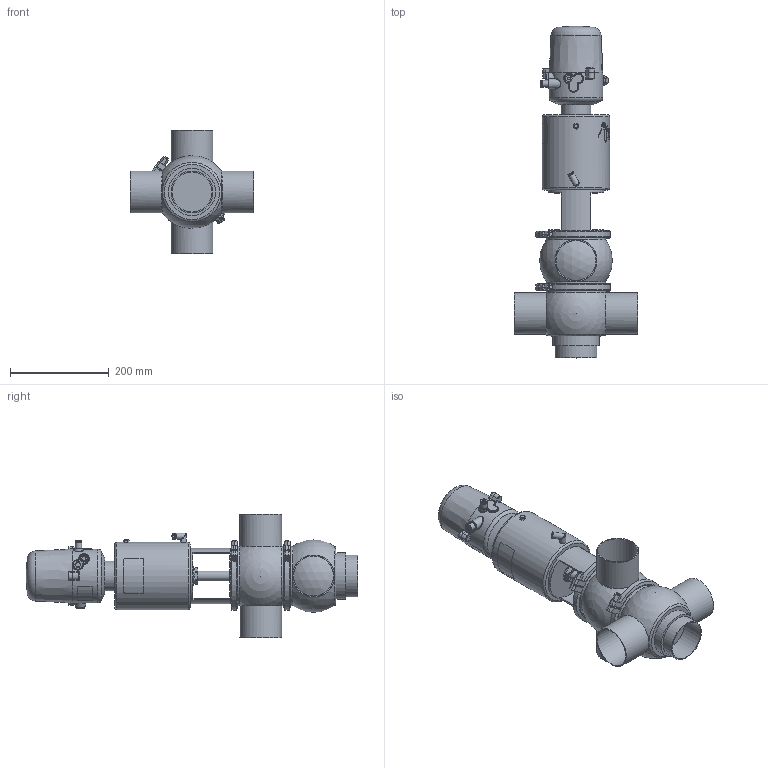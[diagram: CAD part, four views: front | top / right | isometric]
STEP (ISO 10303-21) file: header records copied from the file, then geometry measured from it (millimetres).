
FILE_DESCRIPTION (( 'STEP AP214' ), '1' );
FILE_NAME ('INNOVA K G W DIN 080 T3 AS NC & C-TOP S_10.240.16.0082.STEP', '2024-08-06T09:04:37', ( '' ), ( '' ), 'SwSTEP 2.0', 'SolidWorks 2023', '' );
FILE_SCHEMA (( 'AUTOMOTIVE_DESIGN' ));
Length unit declared in the file: millimetre
Products named in the file (8): 10.240.15.0014_T3 AS P0; 10.426.15.0001_C-TOP S - 1 EV; 10.240.15.0007_DIN 080; 10.240.15.0003_DIN 080; INNOVA K G W DIN 080 T3 AS NC & C-TOP S_10.240.16.0082; 10.240.15.0001_DN 080; 10.240.15.0017_Estàndard; 10.240.15.0010_DN 080
Assembly tree (8 placements, depth 2):
  INNOVA K G W DIN 080 T3 AS NC & C-TOP S_10.240.16.0082
    10.240.15.0007_DIN 080
    10.240.15.0003_DIN 080
    10.240.15.0010_DN 080
    10.240.15.0014_T3 AS P0
    10.240.15.0017_Estàndard
    10.426.15.0001_C-TOP S - 1 EV
    10.240.15.0001_DN 080  x2
Bounding box: 250 x 672 x 250 mm (x, y, z)
Volume: 7136291.6 mm3; surface area: 612936.4 mm2
Topology: 8 solids, 8 shells, 1182 faces, 2873 edges, 1913 vertices
Faces by surface type: plane 412, cylinder 360, cone 201, bspline 160, torus 37, sphere 12
Full cylindrical faces by diameter (mm): 0.371 x17, 0.512 x16, 0.658 x16, 0.795 x16, 0.94 x15, 1.098 x15, 1.241 x13, 1.382 x13, 1.523 x11, 1.669 x10, 2.201 x1, 4 x2, 5.5 x2, 6 x2, 6.15 x1, 8 x6, 8.5 x1, 10 x1, 10.5 x1, 11 x2, 12.5 x3, 13 x2, 13.5 x2, 16 x1, 17 x3, 20 x3, 20.5 x1, 22 x2, 31 x1, 34.5 x3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
Entity records: 58361 total; most frequent: CARTESIAN_POINT 27932, ORIENTED_EDGE 4556, DIRECTION 3699, EDGE_CURVE 2278, VERTEX_POINT 1621, EDGE_LOOP 1583, AXIS2_PLACEMENT_3D 1521, FACE_OUTER_BOUND 1343
